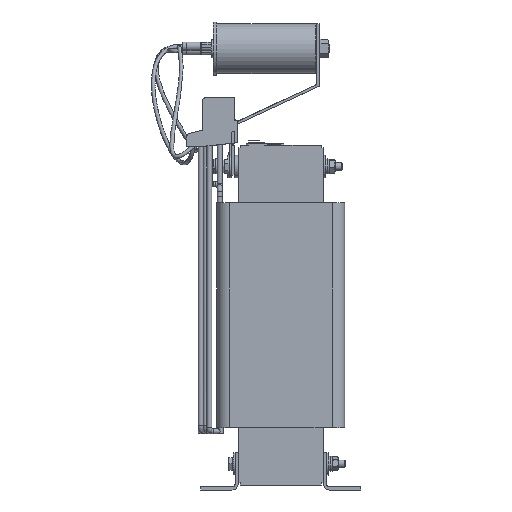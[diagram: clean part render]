
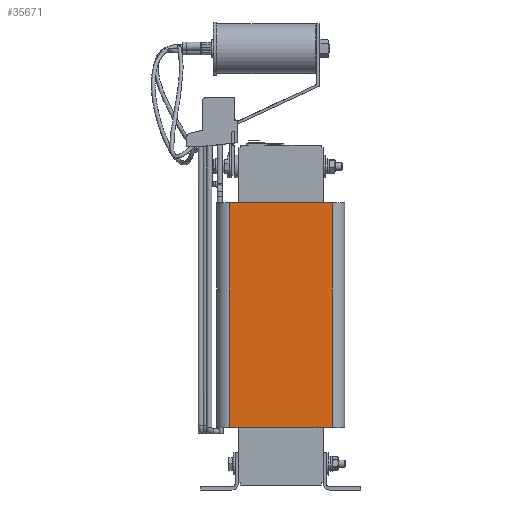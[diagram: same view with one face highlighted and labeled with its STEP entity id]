
A CAD part, left-side view. The second image highlights one B-rep face of the part: STEP entity #35671.
In plain terms, the highlighted planar face has unit normal (-1, 0, 0).
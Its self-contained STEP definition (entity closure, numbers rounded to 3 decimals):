
#2278=LINE('',#54735,#5400);
#2297=LINE('',#54779,#5419);
#2310=LINE('',#54810,#5432);
#2311=LINE('',#54811,#5433);
#5400=VECTOR('',#43741,82.336);
#5419=VECTOR('',#43780,82.336);
#5432=VECTOR('',#43813,180.);
#5433=VECTOR('',#43814,180.);
#7614=PLANE('',#38060);
#9713=FACE_OUTER_BOUND('',#11915,.T.);
#11915=EDGE_LOOP('',(#26749,#26750,#26751,#26752));
#16159=VERTEX_POINT('',#54732);
#16160=VERTEX_POINT('',#54734);
#16174=VERTEX_POINT('',#54776);
#16175=VERTEX_POINT('',#54778);
#20053=EDGE_CURVE('',#16160,#16159,#2278,.T.);
#20078=EDGE_CURVE('',#16175,#16174,#2297,.T.);
#20098=EDGE_CURVE('',#16160,#16174,#2310,.T.);
#20099=EDGE_CURVE('',#16175,#16159,#2311,.T.);
#26749=ORIENTED_EDGE('',*,*,#20098,.F.);
#26750=ORIENTED_EDGE('',*,*,#20053,.T.);
#26751=ORIENTED_EDGE('',*,*,#20099,.F.);
#26752=ORIENTED_EDGE('',*,*,#20078,.T.);
#35671=ADVANCED_FACE('',(#9713),#7614,.T.);
#38060=AXIS2_PLACEMENT_3D('',#54809,#43811,#43812);
#43741=DIRECTION('',(0.,-1.,0.));
#43780=DIRECTION('',(0.,1.,0.));
#43811=DIRECTION('center_axis',(-1.,0.,0.));
#43812=DIRECTION('ref_axis',(0.,0.,1.));
#43813=DIRECTION('',(0.,0.,1.));
#43814=DIRECTION('',(0.,0.,-1.));
#54732=CARTESIAN_POINT('',(-42.369,-16.367,46.));
#54734=CARTESIAN_POINT('',(-42.369,65.969,46.));
#54735=CARTESIAN_POINT('',(-42.369,65.969,46.));
#54776=CARTESIAN_POINT('',(-42.369,65.969,226.));
#54778=CARTESIAN_POINT('',(-42.369,-16.367,226.));
#54779=CARTESIAN_POINT('',(-42.369,-16.367,226.));
#54809=CARTESIAN_POINT('Origin',(-42.369,-26.367,46.));
#54810=CARTESIAN_POINT('',(-42.369,65.969,46.));
#54811=CARTESIAN_POINT('',(-42.369,-16.367,226.));
